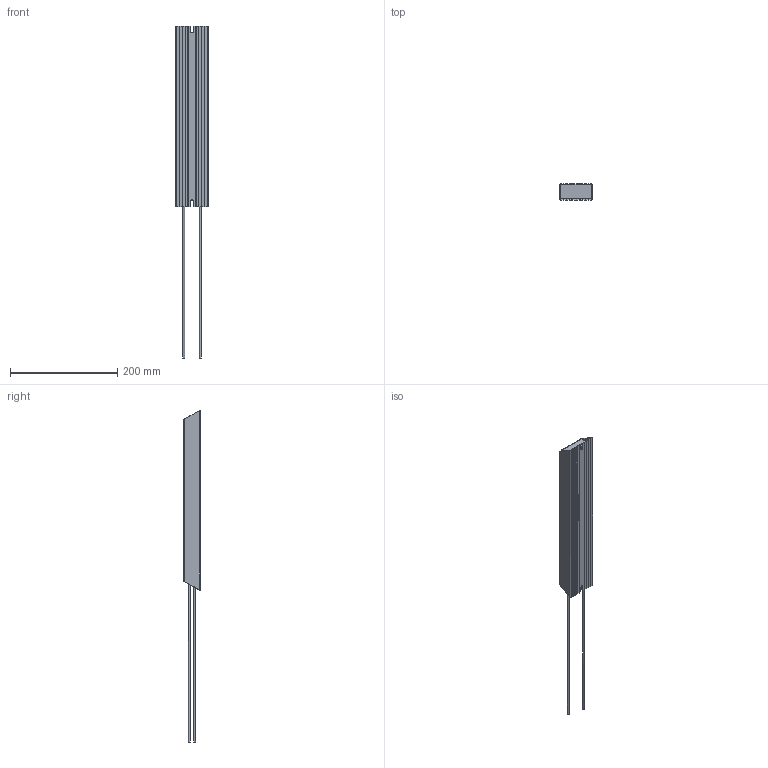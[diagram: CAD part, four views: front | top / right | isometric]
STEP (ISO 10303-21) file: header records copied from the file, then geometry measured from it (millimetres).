
FILE_DESCRIPTION(/* description */ (''),/* implementation_level */ '2;1');
FILE_NAME(/* name */ 'C:\_Vault\Dati\CATALOGO\RFP\UL2014-Def\RFP H 500.stp',/* time_stamp */ '2014-03-24T15:09:24+01:00',/* author */ ('stefano'),/* organization */ (''),/* preprocessor_version */ 'ST-DEVELOPER v15.2',/* originating_system */ 'Autodesk Inventor 2014',/* authorisation */ '');
FILE_SCHEMA (('AUTOMOTIVE_DESIGN { 1 0 10303 214 3 1 1 }'));
Length unit declared in the file: millimetre
Products named in the file (1): RFP H 500
Bounding box: 60 x 31 x 619.8 mm (x, y, z)
Volume: 273794.2 mm3; surface area: 355518.7 mm2
Topology: 3 solids, 4 shells, 527 faces, 1571 edges, 978 vertices
Faces by surface type: plane 302, cylinder 149, bspline 44, torus 20, cone 8, sphere 4
Full cylindrical faces by diameter (mm): 1 x23, 1.5 x12, 1.8 x8, 1.95 x2, 3.1 x6, 3.2 x4, 3.4 x2
Entity records: 20096 total; most frequent: CARTESIAN_POINT 5905, ORIENTED_EDGE 2892, DIRECTION 2703, EDGE_CURVE 1425, VERTEX_POINT 940, LINE 935, VECTOR 935, AXIS2_PLACEMENT_3D 884
